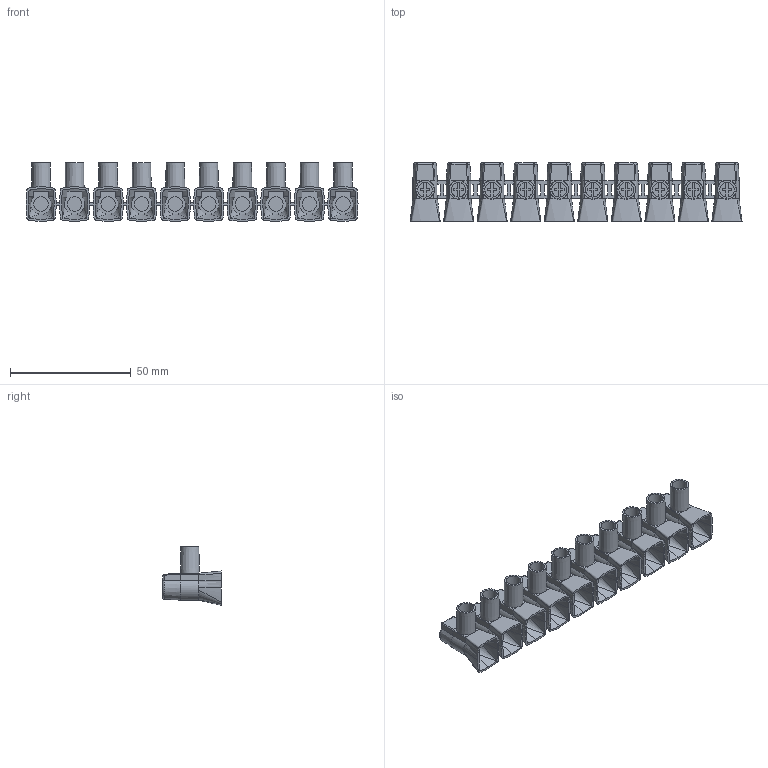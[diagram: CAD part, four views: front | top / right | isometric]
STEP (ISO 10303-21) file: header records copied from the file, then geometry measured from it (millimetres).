
FILE_DESCRIPTION(/* description */ ('Unknown'),/* implementation_level */ '2;1');
FILE_NAME(/* name */ 'MT 506',/* time_stamp */ '2021-10-08T09:42:13+02:00',/* author */ ('Unknown'),/* organization */ ('Unknown'),/* preprocessor_version */ 'ST-DEVELOPER v16.7',/* originating_system */ 'Solid Edge',/* authorisation */ 'Unknown');
FILE_SCHEMA (('AUTOMOTIVE_DESIGN {1 0 10303 214 3 1 1}'));
Length unit declared in the file: millimetre
Products named in the file (1): MT 506
Bounding box: 137.6 x 24.3 x 24.3 mm (x, y, z)
Volume: 16562.1 mm3; surface area: 21578.5 mm2
Topology: 1 solids, 1 shells, 932 faces, 2762 edges, 1736 vertices
Faces by surface type: plane 410, bspline 352, cylinder 140, cone 20, torus 10
Full cylindrical faces by diameter (mm): 6 x10, 6.1 x10
Entity records: 40566 total; most frequent: CARTESIAN_POINT 19427, ORIENTED_EDGE 5140, DIRECTION 3272, EDGE_CURVE 2570, VERTEX_POINT 1676, AXIS2_PLACEMENT_3D 1175, B_SPLINE_CURVE_WITH_KNOTS 1054, EDGE_LOOP 980
